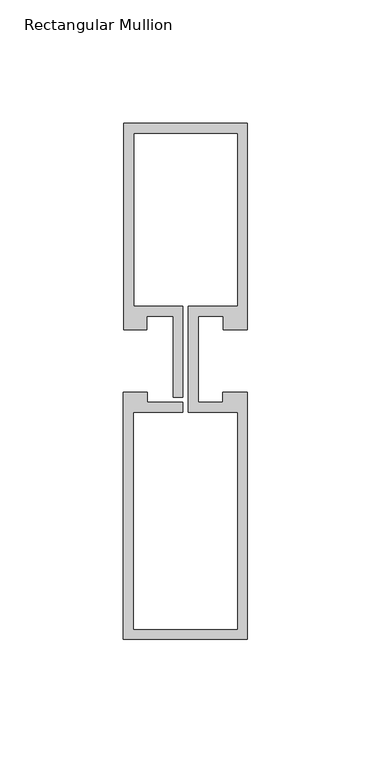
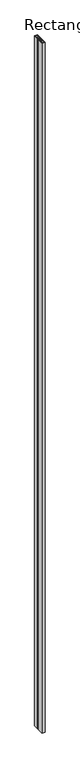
"""IFC4 building model written with IfcOpenShell, lengths in millimetres: member geometry, Rectangular Mullion : Reynaers_CW-50_Transom-Transom_83.5mm_Facecap-02D."""

from ifc_helpers import new_model, si_unit, frame, origin, place, context, project, spatial, polyline, outline, extrude, source, transform, mapped, element, save


def rectangular_mullion_55d4cf0e(model_context):
    return source(origin(), model_context, "Body", "SweptSolid", [
        extrude(outline(polyline([(25.1995941, -12.7331291), (25.1995941, -112.7331291), (-24.994845, -112.7331291), (-24.994845, -12.7331291), (-15.2996495, -12.7331291), (-15.2996495, -16.7331291), (-0.9004059, -16.7331291), (-0.9004059, -20.7331291), (-20.994845, -20.7331291), (-20.994845, -108.7331291), (21.1995941, -108.7331291), (21.1995941, -20.7331291), (1.2995941, -20.7331291), (1.2995941, 22.1331291), (21.1995941, 22.1331291), (21.1995941, 92.2331291), (-20.8004059, 92.2331291), (-20.8004059, 22.1331291), (-0.9004059, 22.1331291), (-0.9004059, -14.7331291), (-4.9004059, -14.7331291), (-4.9004059, 18.1331291), (-15.499, 18.1331291), (-15.499, 12.7331291), (-24.8004059, 12.7331291), (-24.8004059, 96.2331291), (25.1995941, 96.2331291), (25.1995941, 12.7331291), (15.499, 12.7331291), (15.499, 18.1331291), (5.2995941, 18.1331291), (5.2995941, -16.7331291), (15.2996495, -16.7331291), (15.2996495, -12.7331291), (25.1995941, -12.7331291)])), frame((0.0, 0.0, -12000.0), z_axis=(0.0, 0.0, 1.0), x_axis=(1.0, 0.0, 0.0)), (0.0, 0.0, 1.0), 12000.0),
    ])


if __name__ == "__main__":
    model = new_model("IFC4")
    model_context = context("Model", 3, world=origin())
    ifc_project = project(units=[si_unit("LENGTHUNIT", "METRE", prefix="MILLI")], contexts=[model_context])
    site = spatial("IfcSite", under=ifc_project)
    building = spatial("IfcBuilding", under=site)
    placement = place(None, origin())
    rectangular_mullion_shape = rectangular_mullion_55d4cf0e(model_context)
    element("IfcMember", 1, ObjectType="Rectangular Mullion : Reynaers_CW-50_Transom-Transom_83.5mm_Facecap-02D", at=placement, inside=building, context=model_context, shape_type="MappedRepresentation", body=[
        mapped(rectangular_mullion_shape, transform((0.0, 0.0, 0.0), x_axis=(1.0, 0.0, 0.0), y_axis=(0.0, 1.0, 0.0), z_axis=(0.0, 0.0, 1.0))),
    ])
    save(model, "model.ifc")
